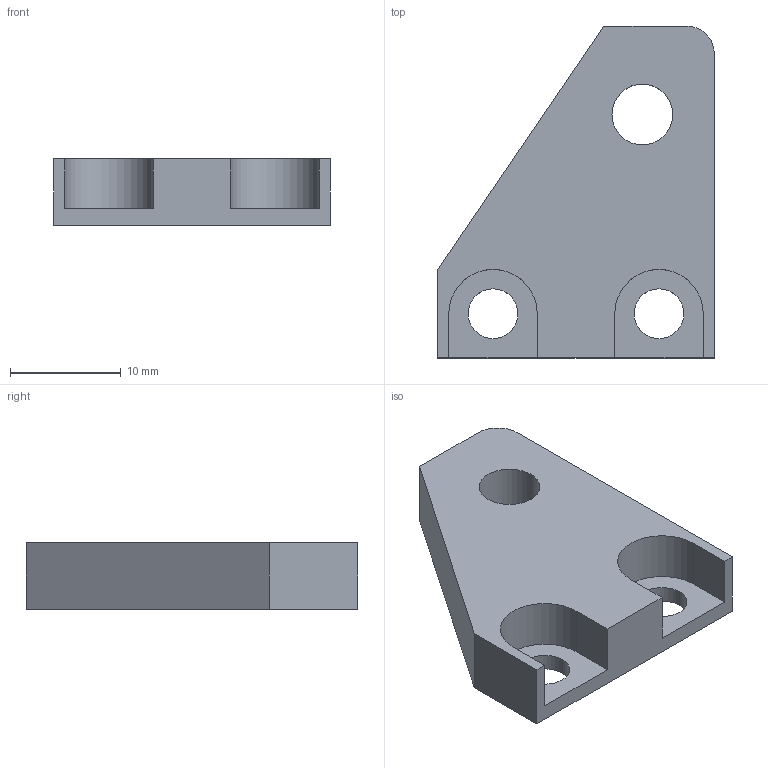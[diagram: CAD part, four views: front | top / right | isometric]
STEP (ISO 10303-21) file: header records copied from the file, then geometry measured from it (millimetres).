
FILE_DESCRIPTION (( 'STEP AP214' ), '1' );
FILE_NAME ('GZ21.11_V1弹簧挡板.STEP', '2021-02-26T06:53:40', ( '微软中国' ), ( 'Microsoft' ), 'SwSTEP 2.0', 'SolidWorks 2017', '' );
FILE_SCHEMA (( 'AUTOMOTIVE_DESIGN' ));
Length unit declared in the file: millimetre
Products named in the file (1): GZ21.11_V1粟銅結啣
Bounding box: 25 x 30 x 6 mm (x, y, z)
Volume: 2797.5 mm3; surface area: 1906.7 mm2
Topology: 1 solids, 1 shells, 22 faces, 60 edges, 40 vertices
Faces by surface type: plane 13, cylinder 9
Entity records: 748 total; most frequent: DIRECTION 124, CARTESIAN_POINT 123, ORIENTED_EDGE 120, EDGE_CURVE 60, VECTOR 42, LINE 42, AXIS2_PLACEMENT_3D 41, VERTEX_POINT 40
